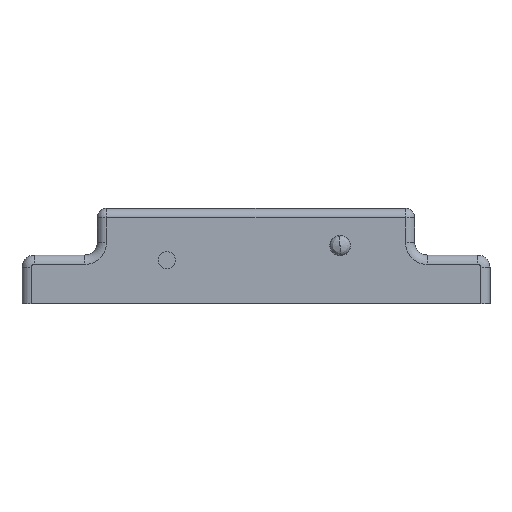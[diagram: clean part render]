
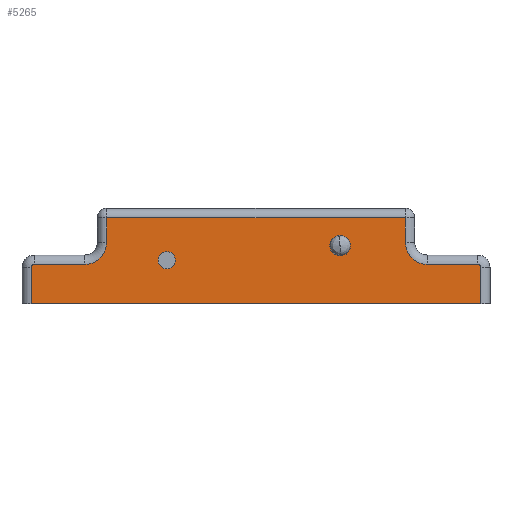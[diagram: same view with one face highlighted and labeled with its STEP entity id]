
A CAD part, front view. The second image highlights one B-rep face of the part: STEP entity #5265.
In plain terms, the highlighted planar face has unit normal (0, -1, 0).
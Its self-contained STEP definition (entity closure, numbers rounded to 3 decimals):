
#18 = EDGE_CURVE ( 'NONE', #8004, #10333, #6326, .T. ) ;
#272 = CARTESIAN_POINT ( 'NONE',  ( 49.1, -20., 3.9 ) ) ;
#304 = DIRECTION ( 'NONE',  ( -1., 0., 0. ) ) ;
#547 = ORIENTED_EDGE ( 'NONE', *, *, #13337, .F. ) ;
#585 = CIRCLE ( 'NONE', #6258, 0.3 ) ;
#630 = DIRECTION ( 'NONE',  ( 0., 0., -1. ) ) ;
#675 = ORIENTED_EDGE ( 'NONE', *, *, #5057, .T. ) ;
#698 = ORIENTED_EDGE ( 'NONE', *, *, #16709, .T. ) ;
#822 = DIRECTION ( 'NONE',  ( 0., 0., -1. ) ) ;
#857 = CARTESIAN_POINT ( 'NONE',  ( 41.05, -20., 9.2 ) ) ;
#1001 = DIRECTION ( 'NONE',  ( 0., -1., 0. ) ) ;
#1303 = ORIENTED_EDGE ( 'NONE', *, *, #8509, .T. ) ;
#1447 = ORIENTED_EDGE ( 'NONE', *, *, #2834, .T. ) ;
#1574 = CARTESIAN_POINT ( 'NONE',  ( 1., -20., 5.2 ) ) ;
#1752 = CARTESIAN_POINT ( 'NONE',  ( 15.49, -20., 3.725 ) ) ;
#1849 = CARTESIAN_POINT ( 'NONE',  ( 1., -20., 3.9 ) ) ;
#2248 = CARTESIAN_POINT ( 'NONE',  ( 43.4, -20., 4.2 ) ) ;
#2368 = FACE_OUTER_BOUND ( 'NONE', #6595, .T. ) ;
#2437 = DIRECTION ( 'NONE',  ( -1., 0., 0. ) ) ;
#2598 = CARTESIAN_POINT ( 'NONE',  ( 34.05, -20., 6.2 ) ) ;
#2834 = EDGE_CURVE ( 'NONE', #7660, #10417, #585, .T. ) ;
#2924 = VERTEX_POINT ( 'NONE', #1752 ) ;
#2930 = ORIENTED_EDGE ( 'NONE', *, *, #5638, .T. ) ;
#3148 = AXIS2_PLACEMENT_3D ( 'NONE', #5951, #12811, #630 ) ;
#3359 = VERTEX_POINT ( 'NONE', #13635 ) ;
#3443 = VERTEX_POINT ( 'NONE', #5798 ) ;
#3616 = CARTESIAN_POINT ( 'NONE',  ( 0., -20., 5.2 ) ) ;
#3730 = DIRECTION ( 'NONE',  ( 0., 1., 0. ) ) ;
#3745 = EDGE_CURVE ( 'NONE', #9872, #8004, #10727, .T. ) ;
#3913 = CARTESIAN_POINT ( 'NONE',  ( 43.4, -20., 6.55 ) ) ;
#4415 = VECTOR ( 'NONE', #10424, 1000. ) ;
#4480 = LINE ( 'NONE', #11316, #14062 ) ;
#4556 = DIRECTION ( 'NONE',  ( 1., 0., 0. ) ) ;
#4717 = VERTEX_POINT ( 'NONE', #7440 ) ;
#4994 = ORIENTED_EDGE ( 'NONE', *, *, #7273, .T. ) ;
#4996 = CARTESIAN_POINT ( 'NONE',  ( 15.49, -20., 4.65 ) ) ;
#5057 = EDGE_CURVE ( 'NONE', #4717, #6573, #15462, .T. ) ;
#5198 = FACE_BOUND ( 'NONE', #17395, .T. ) ;
#5265 = ADVANCED_FACE ( 'NONE', ( #5198, #9097, #2368 ), #13214, .F. ) ;
#5333 = CARTESIAN_POINT ( 'NONE',  ( 48.8, -20., 3.9 ) ) ;
#5342 = ORIENTED_EDGE ( 'NONE', *, *, #13492, .F. ) ;
#5544 = CARTESIAN_POINT ( 'NONE',  ( 9.05, -20., 5.2 ) ) ;
#5638 = EDGE_CURVE ( 'NONE', #8102, #9872, #14621, .T. ) ;
#5658 = EDGE_CURVE ( 'NONE', #3359, #7660, #10159, .T. ) ;
#5669 = EDGE_CURVE ( 'NONE', #7561, #3359, #6078, .T. ) ;
#5716 = LINE ( 'NONE', #16583, #15143 ) ;
#5766 = ORIENTED_EDGE ( 'NONE', *, *, #5669, .T. ) ;
#5798 = CARTESIAN_POINT ( 'NONE',  ( 34.05, -20., 5.3 ) ) ;
#5951 = CARTESIAN_POINT ( 'NONE',  ( 15.49, -20., 4.65 ) ) ;
#6075 = CARTESIAN_POINT ( 'NONE',  ( 1.3, -20., 4.2 ) ) ;
#6078 = CIRCLE ( 'NONE', #9780, 2.35 ) ;
#6258 = AXIS2_PLACEMENT_3D ( 'NONE', #7701, #11990, #9294 ) ;
#6326 = LINE ( 'NONE', #2248, #4415 ) ;
#6372 = CIRCLE ( 'NONE', #12072, 0.925 ) ;
#6389 = ORIENTED_EDGE ( 'NONE', *, *, #5658, .T. ) ;
#6573 = VERTEX_POINT ( 'NONE', #857 ) ;
#6595 = EDGE_LOOP ( 'NONE', ( #4994, #9493, #5766, #6389, #1447, #11929, #698, #2930, #13581, #7712, #1303, #675 ) ) ;
#6705 = ORIENTED_EDGE ( 'NONE', *, *, #9658, .F. ) ;
#6769 = DIRECTION ( 'NONE',  ( 0., 0., -1. ) ) ;
#6995 = VECTOR ( 'NONE', #12421, 1000. ) ;
#7273 = EDGE_CURVE ( 'NONE', #6573, #13875, #4480, .T. ) ;
#7406 = CIRCLE ( 'NONE', #13682, 0.9 ) ;
#7420 = DIRECTION ( 'NONE',  ( 0., 0., 1. ) ) ;
#7440 = CARTESIAN_POINT ( 'NONE',  ( 41.05, -20., 6.55 ) ) ;
#7561 = VERTEX_POINT ( 'NONE', #7999 ) ;
#7660 = VERTEX_POINT ( 'NONE', #16656 ) ;
#7701 = CARTESIAN_POINT ( 'NONE',  ( 1.3, -20., 3.9 ) ) ;
#7712 = ORIENTED_EDGE ( 'NONE', *, *, #18, .T. ) ;
#7999 = CARTESIAN_POINT ( 'NONE',  ( 9.05, -20., 6.55 ) ) ;
#8004 = VERTEX_POINT ( 'NONE', #13600 ) ;
#8102 = VERTEX_POINT ( 'NONE', #9485 ) ;
#8243 = CIRCLE ( 'NONE', #3148, 0.925 ) ;
#8252 = EDGE_CURVE ( 'NONE', #2924, #8290, #8243, .T. ) ;
#8290 = VERTEX_POINT ( 'NONE', #16824 ) ;
#8509 = EDGE_CURVE ( 'NONE', #10333, #4717, #11962, .T. ) ;
#8904 = DIRECTION ( 'NONE',  ( 0., 0., 1. ) ) ;
#8983 = ORIENTED_EDGE ( 'NONE', *, *, #8252, .F. ) ;
#9097 = FACE_BOUND ( 'NONE', #11042, .T. ) ;
#9144 = DIRECTION ( 'NONE',  ( 0., 0., 1. ) ) ;
#9187 = VECTOR ( 'NONE', #8904, 1000. ) ;
#9188 = DIRECTION ( 'NONE',  ( 0., 1., 0. ) ) ;
#9263 = VECTOR ( 'NONE', #6769, 1000. ) ;
#9294 = DIRECTION ( 'NONE',  ( 0., 0., 1. ) ) ;
#9310 = DIRECTION ( 'NONE',  ( 0., 0., 1. ) ) ;
#9485 = CARTESIAN_POINT ( 'NONE',  ( 49.1, -20., 0. ) ) ;
#9493 = ORIENTED_EDGE ( 'NONE', *, *, #11200, .T. ) ;
#9658 = EDGE_CURVE ( 'NONE', #3443, #12920, #7406, .T. ) ;
#9705 = LINE ( 'NONE', #5544, #9263 ) ;
#9780 = AXIS2_PLACEMENT_3D ( 'NONE', #10428, #11505, #17297 ) ;
#9872 = VERTEX_POINT ( 'NONE', #272 ) ;
#9895 = DIRECTION ( 'NONE',  ( 0., 0., -1. ) ) ;
#10159 = LINE ( 'NONE', #6075, #15195 ) ;
#10282 = CARTESIAN_POINT ( 'NONE',  ( 34.05, -20., 7.1 ) ) ;
#10333 = VERTEX_POINT ( 'NONE', #15106 ) ;
#10360 = DIRECTION ( 'NONE',  ( 0., 0., 1. ) ) ;
#10399 = CARTESIAN_POINT ( 'NONE',  ( 34.05, -20., 6.2 ) ) ;
#10416 = CARTESIAN_POINT ( 'NONE',  ( 1., -20., 0. ) ) ;
#10417 = VERTEX_POINT ( 'NONE', #1849 ) ;
#10420 = DIRECTION ( 'NONE',  ( 0., -1., 0. ) ) ;
#10424 = DIRECTION ( 'NONE',  ( -1., 0., 0. ) ) ;
#10428 = CARTESIAN_POINT ( 'NONE',  ( 6.7, -20., 6.55 ) ) ;
#10727 = CIRCLE ( 'NONE', #11022, 0.3 ) ;
#10827 = EDGE_CURVE ( 'NONE', #10417, #12164, #13747, .T. ) ;
#11022 = AXIS2_PLACEMENT_3D ( 'NONE', #5333, #1001, #9144 ) ;
#11042 = EDGE_LOOP ( 'NONE', ( #6705, #5342 ) ) ;
#11200 = EDGE_CURVE ( 'NONE', #13875, #7561, #9705, .T. ) ;
#11316 = CARTESIAN_POINT ( 'NONE',  ( 0., -20., 9.2 ) ) ;
#11505 = DIRECTION ( 'NONE',  ( 0., 1., 0. ) ) ;
#11648 = CARTESIAN_POINT ( 'NONE',  ( 9.05, -20., 9.2 ) ) ;
#11862 = CARTESIAN_POINT ( 'NONE',  ( 49.1, -20., 5.2 ) ) ;
#11929 = ORIENTED_EDGE ( 'NONE', *, *, #10827, .T. ) ;
#11962 = CIRCLE ( 'NONE', #14516, 2.35 ) ;
#11990 = DIRECTION ( 'NONE',  ( 0., -1., 0. ) ) ;
#12072 = AXIS2_PLACEMENT_3D ( 'NONE', #4996, #10420, #822 ) ;
#12164 = VERTEX_POINT ( 'NONE', #10416 ) ;
#12421 = DIRECTION ( 'NONE',  ( 0., 0., -1. ) ) ;
#12583 = DIRECTION ( 'NONE',  ( 0., -1., 0. ) ) ;
#12811 = DIRECTION ( 'NONE',  ( 0., -1., 0. ) ) ;
#12920 = VERTEX_POINT ( 'NONE', #10282 ) ;
#13192 = CIRCLE ( 'NONE', #14928, 0.9 ) ;
#13214 = PLANE ( 'NONE',  #13713 ) ;
#13337 = EDGE_CURVE ( 'NONE', #8290, #2924, #6372, .T. ) ;
#13492 = EDGE_CURVE ( 'NONE', #12920, #3443, #13192, .T. ) ;
#13581 = ORIENTED_EDGE ( 'NONE', *, *, #3745, .T. ) ;
#13600 = CARTESIAN_POINT ( 'NONE',  ( 48.8, -20., 4.2 ) ) ;
#13630 = DIRECTION ( 'NONE',  ( 0., -1., 0. ) ) ;
#13635 = CARTESIAN_POINT ( 'NONE',  ( 6.7, -20., 4.2 ) ) ;
#13682 = AXIS2_PLACEMENT_3D ( 'NONE', #10399, #12583, #9895 ) ;
#13713 = AXIS2_PLACEMENT_3D ( 'NONE', #3616, #9188, #10360 ) ;
#13747 = LINE ( 'NONE', #1574, #6995 ) ;
#13875 = VERTEX_POINT ( 'NONE', #11648 ) ;
#13943 = CARTESIAN_POINT ( 'NONE',  ( 41.05, -20., 5.2 ) ) ;
#14062 = VECTOR ( 'NONE', #304, 1000. ) ;
#14516 = AXIS2_PLACEMENT_3D ( 'NONE', #3913, #3730, #9310 ) ;
#14621 = LINE ( 'NONE', #11862, #9187 ) ;
#14928 = AXIS2_PLACEMENT_3D ( 'NONE', #2598, #13630, #14974 ) ;
#14974 = DIRECTION ( 'NONE',  ( 0., 0., -1. ) ) ;
#15106 = CARTESIAN_POINT ( 'NONE',  ( 43.4, -20., 4.2 ) ) ;
#15140 = VECTOR ( 'NONE', #7420, 1000. ) ;
#15143 = VECTOR ( 'NONE', #4556, 1000. ) ;
#15195 = VECTOR ( 'NONE', #2437, 1000. ) ;
#15462 = LINE ( 'NONE', #13943, #15140 ) ;
#16583 = CARTESIAN_POINT ( 'NONE',  ( 0., -20., 0. ) ) ;
#16656 = CARTESIAN_POINT ( 'NONE',  ( 1.3, -20., 4.2 ) ) ;
#16709 = EDGE_CURVE ( 'NONE', #12164, #8102, #5716, .T. ) ;
#16824 = CARTESIAN_POINT ( 'NONE',  ( 15.49, -20., 5.575 ) ) ;
#17297 = DIRECTION ( 'NONE',  ( 0., 0., 1. ) ) ;
#17395 = EDGE_LOOP ( 'NONE', ( #8983, #547 ) ) ;
